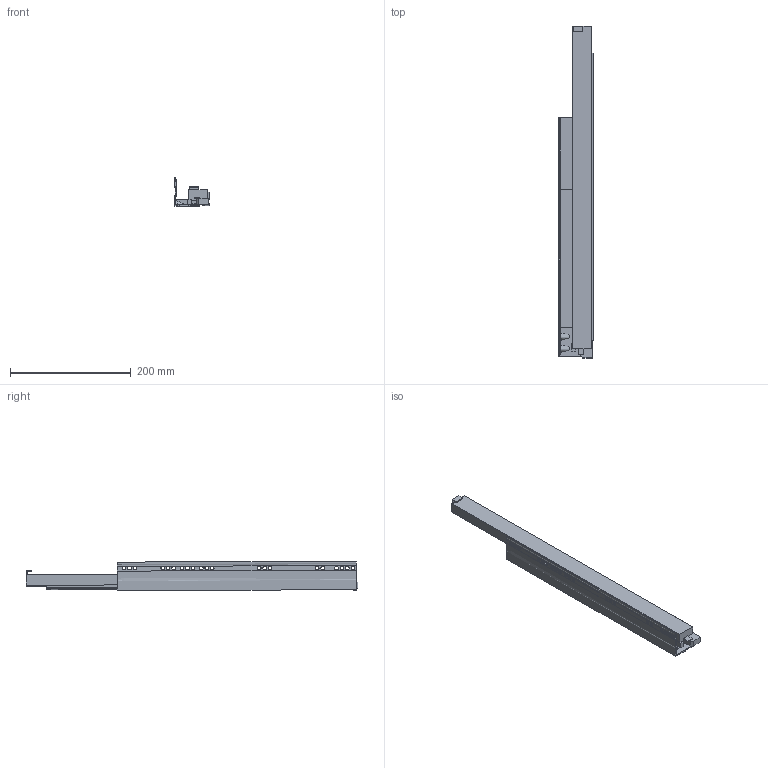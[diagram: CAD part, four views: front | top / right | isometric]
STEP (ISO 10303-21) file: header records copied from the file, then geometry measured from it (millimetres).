
FILE_DESCRIPTION (( 'STEP AP214' ), '1' );
FILE_NAME ('_IMOS_Dynapro_Softclose_D516_NL_550_LI.step', '2010-07-16T06:01:33', ( 'grass' ), ( '' ), 'SwSTEP 2.0', 'SolidWorks 2009', '' );
FILE_SCHEMA (( 'AUTOMOTIVE_DESIGN' ));
Length unit declared in the file: millimetre
Products named in the file (1): _IMOS_Dynapro_Softclose_D516_NL_550_LI
Bounding box: 57.08 x 550.07 x 47.86 mm (x, y, z)
Volume: 476861.3 mm3; surface area: 154982.8 mm2
Topology: 1 solids, 1 shells, 125 faces, 424 edges, 297 vertices
Faces by surface type: plane 76, cylinder 42, bspline 7
Entity records: 5458 total; most frequent: CARTESIAN_POINT 1561, ORIENTED_EDGE 840, DIRECTION 760, EDGE_CURVE 420, LINE 312, VECTOR 312, VERTEX_POINT 297, AXIS2_PLACEMENT_3D 224
